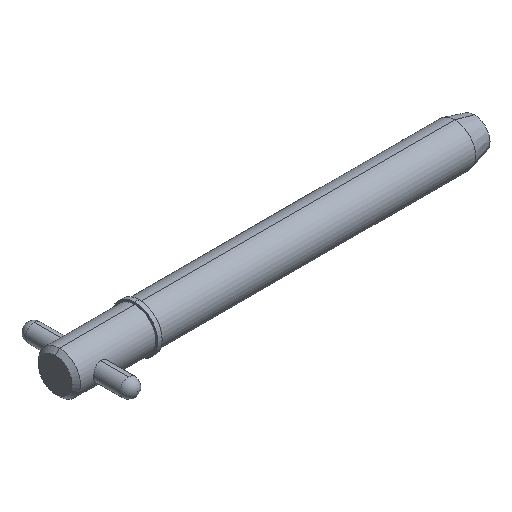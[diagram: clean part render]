
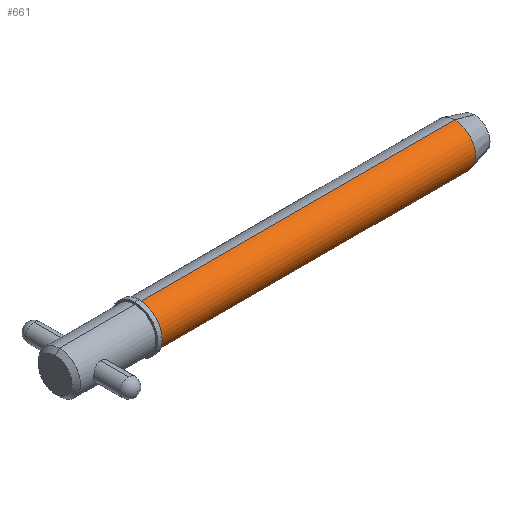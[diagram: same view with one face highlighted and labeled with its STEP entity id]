
A CAD part, isometric view. The second image highlights one B-rep face of the part: STEP entity #661.
In plain terms, the highlighted cylindrical face has radius 4.765 mm (diameter 9.53 mm), a partial arc.
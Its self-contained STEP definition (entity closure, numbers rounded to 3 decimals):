
#3 = VERTEX_POINT ( 'NONE', #499 ) ;
#10 = DIRECTION ( 'NONE',  ( 1., 0., 0. ) ) ;
#52 = DIRECTION ( 'NONE',  ( 1., 0., 0. ) ) ;
#68 = CARTESIAN_POINT ( 'NONE',  ( 19.05, 0., 0. ) ) ;
#101 = EDGE_CURVE ( 'NONE', #3, #464, #373, .T. ) ;
#113 = AXIS2_PLACEMENT_3D ( 'NONE', #68, #389, #708 ) ;
#128 = CARTESIAN_POINT ( 'NONE',  ( 19.05, 0., -4.765 ) ) ;
#145 = DIRECTION ( 'NONE',  ( 0., 0., -1. ) ) ;
#217 = CARTESIAN_POINT ( 'NONE',  ( 90.804, 0., 0. ) ) ;
#237 = ORIENTED_EDGE ( 'NONE', *, *, #241, .F. ) ;
#241 = EDGE_CURVE ( 'NONE', #464, #953, #701, .T. ) ;
#265 = AXIS2_PLACEMENT_3D ( 'NONE', #217, #532, #595 ) ;
#319 = DIRECTION ( 'NONE',  ( 1., 0., 0. ) ) ;
#323 = EDGE_LOOP ( 'NONE', ( #1033, #892, #867, #237 ) ) ;
#337 = CARTESIAN_POINT ( 'NONE',  ( 90.804, 0., -4.765 ) ) ;
#351 = EDGE_CURVE ( 'NONE', #3, #562, #599, .T. ) ;
#362 = CARTESIAN_POINT ( 'NONE',  ( 90.804, 0., 4.765 ) ) ;
#373 = LINE ( 'NONE', #694, #688 ) ;
#389 = DIRECTION ( 'NONE',  ( 1., 0., 0. ) ) ;
#464 = VERTEX_POINT ( 'NONE', #362 ) ;
#499 = CARTESIAN_POINT ( 'NONE',  ( 19.05, 0., 4.765 ) ) ;
#532 = DIRECTION ( 'NONE',  ( 1., 0., 0. ) ) ;
#546 = CARTESIAN_POINT ( 'NONE',  ( 0., 0., 0. ) ) ;
#562 = VERTEX_POINT ( 'NONE', #128 ) ;
#595 = DIRECTION ( 'NONE',  ( 0., 0., -1. ) ) ;
#599 = CIRCLE ( 'NONE', #113, 4.765 ) ;
#643 = LINE ( 'NONE', #684, #783 ) ;
#661 = ADVANCED_FACE ( 'NONE', ( #936 ), #865, .T. ) ;
#684 = CARTESIAN_POINT ( 'NONE',  ( 0., 0., -4.765 ) ) ;
#688 = VECTOR ( 'NONE', #52, 1000. ) ;
#694 = CARTESIAN_POINT ( 'NONE',  ( 0., 0., 4.765 ) ) ;
#701 = CIRCLE ( 'NONE', #265, 4.765 ) ;
#708 = DIRECTION ( 'NONE',  ( 0., 0., -1. ) ) ;
#754 = EDGE_CURVE ( 'NONE', #562, #953, #643, .T. ) ;
#783 = VECTOR ( 'NONE', #10, 1000. ) ;
#865 = CYLINDRICAL_SURFACE ( 'NONE', #930, 4.765 ) ;
#867 = ORIENTED_EDGE ( 'NONE', *, *, #754, .T. ) ;
#892 = ORIENTED_EDGE ( 'NONE', *, *, #351, .T. ) ;
#930 = AXIS2_PLACEMENT_3D ( 'NONE', #546, #319, #145 ) ;
#936 = FACE_OUTER_BOUND ( 'NONE', #323, .T. ) ;
#953 = VERTEX_POINT ( 'NONE', #337 ) ;
#1033 = ORIENTED_EDGE ( 'NONE', *, *, #101, .F. ) ;
